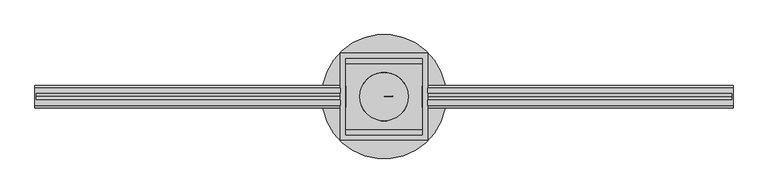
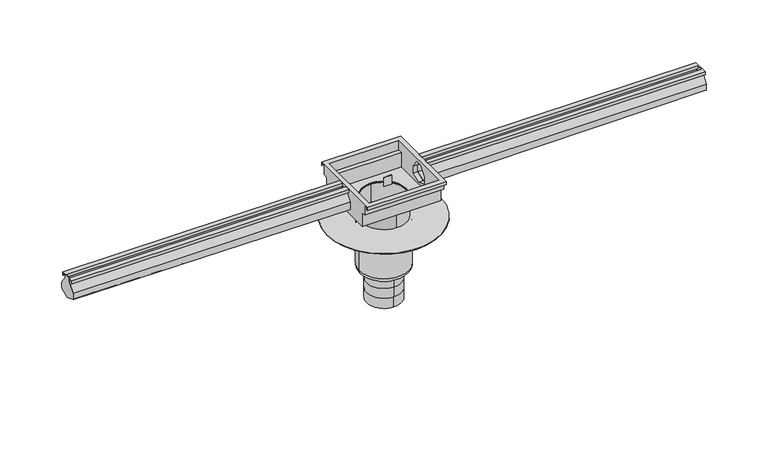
"""IFC4 building model written with IfcOpenShell, lengths in millimetres: sanitary terminal geometry, PF_SS_WPB_Modul 20 : Centered outlet with vertical siphon box."""

from ifc_helpers import new_model, si_unit, point, frame, frame_2d, origin, origin_2d, place, context, project, spatial, polyline, circle_curve, ellipse_curve, trimmed, segment, composite_curve, outline, extrude, faceted_brep, source, transform, mapped, element, save
from ifc_brep_helpers import plane_surface, cylinder_surface, revolved_surface, advanced_brep


def sanitary_terminal_f6cb8919(model_context):
    return source(origin(), model_context, "Body", "SolidModel", [
        advanced_brep(
        [(0.0, 55.0, -419.0), (0.0, -55.0, -419.0), (0.0, 55.0, -386.0), (0.0, -55.0, -386.0), (0.0, 55.0, -353.0), (0.0, -55.0, -353.0), (0.0, -55.0, -320.0), (-55.0, 0.0, -320.0), (0.0, 55.0, -320.0), (55.0, 0.0, -320.0), (-78.5, 0.0, -303.5), (78.5, 0.0, -303.5), (78.5, 0.0, -151.0), (-78.5, 0.0, -151.0), (-62.0, 0.0, -320.0), (62.0, 0.0, -320.0), (179.0, 0.0, -151.0), (-179.0, 0.0, -151.0), (179.0, 0.0, -149.0), (-179.0, 0.0, -149.0)],
        [
            (0, 1, circle_curve(frame((0.0, 0.0, -419.0), z_axis=(0.0, 0.0, -1.0), x_axis=(0.0, -1.0, 0.0)), 55.0)),
            (1, 0, circle_curve(frame((0.0, 0.0, -419.0), z_axis=(0.0, 0.0, -1.0), x_axis=(0.0, -1.0, 0.0)), 55.0)),
            (0, 2),
            (2, 3, circle_curve(frame((0.0, 0.0, -386.0), z_axis=(0.0, 0.0, -1.0), x_axis=(0.0, -1.0, 0.0)), 55.0)),
            (3, 1),
            (3, 2, circle_curve(frame((0.0, 0.0, -386.0), z_axis=(0.0, 0.0, -1.0), x_axis=(0.0, -1.0, 0.0)), 55.0)),
            (4, 2),
            (3, 5),
            (5, 4, circle_curve(frame((0.0, 0.0, -353.0), z_axis=(0.0, 0.0, -1.0), x_axis=(-1.0, 0.0, 0.0)), 55.0)),
            (4, 5, circle_curve(frame((0.0, 0.0, -353.0), z_axis=(0.0, 0.0, -1.0), x_axis=(1.0, 0.0, 0.0)), 55.0)),
            (5, 6),
            (6, 7, circle_curve(frame((0.0, 0.0, -320.0), z_axis=(0.0, 0.0, -1.0), x_axis=(0.0, -1.0, 0.0)), 55.0)),
            (7, 8, circle_curve(frame((0.0, 0.0, -320.0), z_axis=(0.0, 0.0, -1.0), x_axis=(0.0, -1.0, 0.0)), 55.0)),
            (8, 4),
            (8, 9, circle_curve(frame((0.0, 0.0, -320.0), z_axis=(0.0, 0.0, -1.0), x_axis=(0.0, -1.0, 0.0)), 55.0)),
            (9, 6, circle_curve(frame((0.0, 0.0, -320.0), z_axis=(0.0, 0.0, -1.0), x_axis=(0.0, -1.0, 0.0)), 55.0)),
            (10, 11, circle_curve(frame((0.0, 0.0, -303.5), z_axis=(0.0, 0.0, 1.0), x_axis=(1.0, 0.0, 0.0)), 78.5)),
            (11, 12),
            (12, 13, circle_curve(frame((0.0, 0.0, -151.0), z_axis=(0.0, 0.0, -1.0), x_axis=(1.0, 0.0, 0.0)), 78.5)),
            (13, 10),
            (11, 10, circle_curve(frame((0.0, 0.0, -303.5), z_axis=(0.0, 0.0, 1.0), x_axis=(1.0, 0.0, 0.0)), 78.5)),
            (13, 12, circle_curve(frame((0.0, 0.0, -151.0), z_axis=(0.0, 0.0, -1.0), x_axis=(1.0, 0.0, 0.0)), 78.5)),
            (10, 14, circle_curve(frame((-62.0, 0.0, -303.5), z_axis=(0.0, -1.0, 0.0), x_axis=(1.0, 0.0, 0.0)), 16.5)),
            (14, 15, circle_curve(frame((0.0, 0.0, -320.0), z_axis=(0.0, 0.0, 1.0), x_axis=(1.0, 0.0, 0.0)), 62.0)),
            (15, 11, circle_curve(frame((62.0, 0.0, -303.5), z_axis=(0.0, -1.0, 0.0), x_axis=(-1.0, 0.0, 0.0)), 16.5)),
            (15, 14, circle_curve(frame((0.0, 0.0, -320.0), z_axis=(0.0, 0.0, 1.0), x_axis=(1.0, 0.0, 0.0)), 62.0)),
            (14, 7),
            (9, 15),
            (16, 17, circle_curve(frame((0.0, 0.0, -151.0), z_axis=(0.0, 0.0, -1.0), x_axis=(-1.0, 0.0, 0.0)), 179.0)),
            (17, 16, circle_curve(frame((0.0, 0.0, -151.0), z_axis=(0.0, 0.0, -1.0), x_axis=(-1.0, 0.0, 0.0)), 179.0)),
            (18, 19, circle_curve(frame((0.0, 0.0, -149.0), z_axis=(0.0, 0.0, 1.0), x_axis=(-1.0, 0.0, 0.0)), 179.0)),
            (19, 18, circle_curve(frame((0.0, 0.0, -149.0), z_axis=(0.0, 0.0, 1.0), x_axis=(-1.0, 0.0, 0.0)), 179.0)),
            (17, 19),
            (18, 16),
        ],
        [
            plane_surface(frame((0.0, -55.0, -419.0), z_axis=(0.0, 0.0, -1.0), x_axis=(-1.0, 0.0, 0.0))),
            cylinder_surface(frame((0.0, 0.0, -386.0), z_axis=(0.0, 0.0, -1.0), x_axis=(0.0, -1.0, 0.0)), 55.0),
            cylinder_surface(frame((0.0, 0.0, -353.0), z_axis=(0.0, 0.0, -1.0), x_axis=(-1.0, 0.0, 0.0)), 55.0),
            cylinder_surface(frame((0.0, 0.0, -353.0), z_axis=(0.0, 0.0, -1.0), x_axis=(1.0, 0.0, 0.0)), 55.0),
            cylinder_surface(frame((0.0, 0.0, -320.0), z_axis=(0.0, 0.0, -1.0), x_axis=(0.0, -1.0, 0.0)), 55.0),
            cylinder_surface(frame((0.0, 0.0, -89.0), z_axis=(0.0, 0.0, -1.0), x_axis=(1.0, 0.0, 0.0)), 78.5),
            revolved_surface(trimmed(ellipse_curve(frame((62.0, 0.0, -303.5), z_axis=(0.0, 1.0, 0.0), x_axis=(-1.0, 0.0, 0.0)), 16.5, 16.5), [point((78.5, 0.0, -303.5))], [point((62.0, 0.0, -320.0))], True, "CARTESIAN"), (0.0, 0.0, -89.0), (0.0, 0.0, -1.0)),
            plane_surface(frame((0.0, 0.0, -320.0), z_axis=(0.0, 0.0, -1.0), x_axis=(1.0, 0.0, 0.0))),
            plane_surface(frame((-179.0, 0.0, -151.0), z_axis=(0.0, 0.0, -1.0), x_axis=(0.0, 1.0, 0.0))),
            plane_surface(frame((-179.0, 0.0, -149.0), z_axis=(0.0, 0.0, 1.0), x_axis=(0.0, -1.0, 0.0))),
            cylinder_surface(frame((0.0, 0.0, -151.0), z_axis=(0.0, 0.0, 1.0), x_axis=(-1.0, 0.0, 0.0)), 179.0),
        ],
        [
            (0, [[1, 2]]),
            (1, [[-1, 3, 4, 5]]),
            (1, [[-2, -5, 6, -3]]),
            (2, [[7, -6, 8, 9]]),
            (3, [[-7, 10, -8, -4]]),
            (4, [[11, 12, 13, 14, -9]]),
            (4, [[-11, -10, -14, 15, 16]]),
            (5, [[17, 18, 19, 20]]),
            (5, [[-18, 21, -20, 22]]),
            (6, [[-17, 23, 24, 25]]),
            (6, [[-21, -25, 26, -23]]),
            (7, [[-24, 27, -12, -16, 28]]),
            (7, [[-26, -28, -15, -13, -27]]),
            (8, [[29, 30], [-19, -22]]),
            (9, [[31, 32]]),
            (10, [[-30, 33, -31, 34]]),
            (10, [[-29, -34, -32, -33]]),
        ],
    ),
        extrude(outline(composite_curve([segment(polyline([(-320.0, 0.0), (-320.0, 20.0)]), True, "CONTINUOUS"), segment(trimmed(circle_curve(frame_2d((-320.0, 0.0)), 20.0), [point((-320.0, 20.0))], [point((-318.2568851, 19.923894))], False, "CARTESIAN"), True, "CONTINUOUS"), segment(polyline([(-318.2568851, 19.923894), (-320.0, 0.0)]), True, "CONTINUOUS")], self_intersect=False)), frame((0.0, -20.0, 0.0), z_axis=(0.0, 1.0, 0.0), x_axis=(0.0, 0.0, 1.0)), (0.0, 0.0, 1.0), 20.0),
        extrude(outline(composite_curve([segment(trimmed(circle_curve(origin_2d(), 71.0), [point((0.0, 71.0))], [point((0.0, -71.0))], False, "CARTESIAN"), True, "CONTINUOUS"), segment(trimmed(circle_curve(origin_2d(), 71.0), [point((0.0, -71.0))], [point((0.0, 71.0))], False, "CARTESIAN"), True, "CONTINUOUS")], self_intersect=False), holes=[composite_curve([segment(trimmed(circle_curve(origin_2d(), 69.5), [point((0.0, 69.5))], [point((0.0, -69.5))], True, "CARTESIAN"), True, "CONTINUOUS"), segment(trimmed(circle_curve(origin_2d(), 69.5), [point((0.0, -69.5))], [point((0.0, 69.5))], True, "CARTESIAN"), True, "CONTINUOUS")], self_intersect=False)]), frame((0.0, 0.0, -144.0), z_axis=(0.0, 0.0, 1.0), x_axis=(1.0, 0.0, 0.0)), (0.0, 0.0, 1.0), 60.0),
        faceted_brep([(-125.0, -25.0, 0.0), (-125.0, -25.0, -10.0), (-125.0, -23.5, -10.0), (-125.0, -23.5, -1.5), (-125.0, -11.5, -1.5), (-125.0, -11.5, -9.5126205), (-125.0, -32.0, -37.7284498), (-125.0, -32.0, -62.5070441), (-125.0, 0.0, -75.1121794), (-125.0, 32.0, -62.5070441), (-125.0, 32.0, -37.7284498), (-125.0, 11.5, -9.5126205), (-125.0, 11.5, -1.5), (-125.0, 23.5294496, -1.5), (-125.0, 23.5294496, -10.0), (-125.0, 25.0294496, -10.0), (-125.0, 25.0294496, 0.0), (-125.0, 10.0, 0.0), (-125.0, 10.0, -10.0), (-125.0, 30.5, -38.2158294), (-125.0, 30.5, -61.4857305), (-125.0, 0.0, -73.5), (-125.0, -30.5, -61.4857305), (-125.0, -30.5, -38.2158294), (-125.0, -10.0, -10.0), (-125.0, -10.0, 0.0), (-1002.0, -32.0, -57.5070441), (-1002.0, -32.0, -37.7284498), (-1002.0, -11.5, -9.5126205), (-1002.0, -11.5, -1.5), (-1002.0, -23.0, -1.5), (-1002.0, -23.0, -10.0), (-1002.0, -25.0, -10.0), (-1002.0, -25.0, 0.0), (-1002.0, 25.0, 0.0), (-1002.0, 25.0, -10.0), (-1002.0, 23.5, -10.0), (-1002.0, 23.5, -1.5), (-1002.0, 11.5, -1.5), (-1002.0, 11.5, -9.5126205), (-1002.0, 32.0, -37.7284498), (-1002.0, 32.0, -57.5070441), (-1002.0, 0.0, -70.1121794), (-1000.0, -23.0, -10.0), (-1000.0, -23.0, -1.5), (-1000.0, -23.5, -1.5), (-1000.0, -23.5, -10.0), (-1000.0, 10.0, 0.0), (-1000.0, -10.0, 0.0), (-1000.0, -10.0, -10.0), (-1000.0, -30.5, -38.2158294), (-1000.0, -30.5, -56.4857305), (-1000.0, 0.0, -68.5), (-1000.0, 30.5, -56.4857305), (-1000.0, 30.5, -38.2158294), (-1000.0, 10.0, -10.0), (-1000.0, 32.0, -57.5070441), (-1000.0, 0.0, -70.1121794), (-1000.0, -32.0, -57.5070441)], [[[0, 1, 2, 3, 4, 5, 6, 7, 8, 9, 10, 11, 12, 13, 14, 15, 16, 17, 18, 19, 20, 21, 22, 23, 24, 25]], [[26, 27, 28, 29, 30, 31, 32, 33, 34, 35, 36, 37, 38, 39, 40, 41, 42]], [[43, 44, 45, 46]], [[47, 48, 49, 50, 51, 52, 53, 54, 55]], [[31, 30, 44, 43]], [[0, 25, 48, 47, 17, 16, 34, 33]], [[25, 24, 49, 48]], [[24, 23, 50, 49]], [[23, 22, 51, 50]], [[22, 21, 52, 51]], [[21, 20, 53, 52]], [[20, 19, 54, 53]], [[19, 18, 55, 54]], [[18, 17, 47, 55]], [[34, 16, 15, 35]], [[35, 15, 14, 36]], [[36, 14, 13, 37]], [[37, 13, 12, 38]], [[38, 12, 11, 39]], [[39, 11, 10, 40]], [[40, 10, 9, 56, 41]], [[9, 8, 57, 56]], [[8, 7, 58, 57]], [[7, 6, 27, 26, 58]], [[27, 6, 5, 28]], [[28, 5, 4, 29]], [[29, 4, 3, 45, 44, 30]], [[3, 2, 46, 45]], [[2, 1, 32, 31, 43, 46]], [[32, 1, 0, 33]], [[42, 41, 56, 57]], [[26, 42, 57, 58]]]),
        faceted_brep([(125.0, -10.0, 0.0), (125.0, -10.0, -10.0), (125.0, -30.5, -38.2158294), (125.0, -30.5, -61.4857305), (125.0, 0.0, -73.5), (125.0, 30.5, -61.4857305), (125.0, 30.5, -38.2158294), (125.0, 10.0, -10.0), (125.0, 10.0, 0.0), (125.0, 25.0, 0.0), (125.0, 25.0, -10.0), (125.0, 23.5, -10.0), (125.0, 23.5, -1.5), (125.0, 11.5, -1.5), (125.0, 11.5, -9.5126205), (125.0, 32.0, -37.7284498), (125.0, 32.0, -62.5070441), (125.0, 0.0, -75.1121794), (125.0, -32.0, -62.5070441), (125.0, -32.0, -37.7284498), (125.0, -11.5, -9.5126205), (125.0, -11.5, -1.5), (125.0, -23.0, -1.5), (125.0, -23.0, -10.0), (125.0, -25.0, -10.0), (125.0, -25.0, 0.0), (1002.0, -25.0, 0.0), (1002.0, 25.0, 0.0), (1000.0, 10.0, 0.0), (1000.0, -10.0, 0.0), (1002.0, -25.0, -10.0), (1002.0, -23.0, -10.0), (1002.0, -23.0, -1.5), (1002.0, -11.5, -1.5), (1002.0, -11.5, -9.5126205), (1002.0, -32.0, -37.7284498), (1000.0, -32.0, -57.5070441), (1002.0, -32.0, -57.5070441), (1000.0, 0.0, -70.1121794), (1000.0, 32.0, -57.5070441), (1002.0, 32.0, -37.7284498), (1002.0, 32.0, -57.5070441), (1002.0, 11.5, -9.5126205), (1002.0, 11.5, -1.5), (1002.0, 23.5, -1.5), (1002.0, 23.5, -10.0), (1002.0, 25.0, -10.0), (1000.0, 10.0, -10.0), (1000.0, 30.5, -38.2158294), (1000.0, 30.5, -56.4857305), (1000.0, 0.0, -68.5), (1000.0, -30.5, -56.4857305), (1000.0, -30.5, -38.2158294), (1000.0, -10.0, -10.0), (1002.0, 0.0, -70.1121794)], [[[0, 1, 2, 3, 4, 5, 6, 7, 8, 9, 10, 11, 12, 13, 14, 15, 16, 17, 18, 19, 20, 21, 22, 23, 24, 25]], [[0, 25, 26, 27, 9, 8, 28, 29]], [[26, 25, 24, 30]], [[30, 24, 23, 31]], [[31, 23, 22, 32]], [[32, 22, 21, 33]], [[33, 21, 20, 34]], [[34, 20, 19, 35]], [[35, 19, 18, 36, 37]], [[18, 17, 38, 36]], [[17, 16, 39, 38]], [[16, 15, 40, 41, 39]], [[40, 15, 14, 42]], [[42, 14, 13, 43]], [[43, 13, 12, 44]], [[44, 12, 11, 45]], [[45, 11, 10, 46]], [[46, 10, 9, 27]], [[8, 7, 47, 28]], [[7, 6, 48, 47]], [[6, 5, 49, 48]], [[5, 4, 50, 49]], [[4, 3, 51, 50]], [[3, 2, 52, 51]], [[2, 1, 53, 52]], [[1, 0, 29, 53]], [[37, 54, 41, 40, 42, 43, 44, 45, 46, 27, 26, 30, 31, 32, 33, 34, 35]], [[29, 28, 47, 48, 49, 50, 51, 52, 53]], [[41, 54, 38, 39]], [[54, 37, 36, 38]]]),
        advanced_brep(
        [(125.0, -125.0, 0.0), (125.0, -125.0, -10.0), (125.0, -123.5, -10.0), (125.0, -123.5, -1.5), (125.0, -111.5, -1.5), (125.0, -111.5, -33.5), (125.0, -96.5, -33.5), (125.0, -96.5, -81.0), (125.0, 96.5, -81.0), (125.0, 96.5, -33.5), (125.0, 111.5, -33.5), (125.0, 111.5, -1.5), (125.0, 123.5, -1.5), (125.0, 123.5, -10.0), (125.0, 125.0, -10.0), (125.0, 125.0, 0.0), (125.0, -30.5, -38.2158294), (125.0, -10.0, -10.0), (125.0, 10.0, -10.0), (125.0, 30.5, -38.2158294), (125.0, 30.5, -61.4857305), (125.0, 0.0, -73.5), (125.0, -30.5, -61.4857305), (-125.0, 125.0, 0.0), (-125.0, 125.0, -10.0), (-125.0, 123.5, -10.0), (-125.0, 123.5, -1.5), (-125.0, 111.5, -1.5), (-125.0, 111.5, -33.5), (-125.0, 96.5, -33.5), (-125.0, 96.5, -81.0), (-125.0, -96.5, -81.0), (-125.0, -96.5, -33.5), (-125.0, -111.5, -33.5), (-125.0, -111.5, -1.5), (-125.0, -123.5, -1.5), (-125.0, -123.5, -10.0), (-125.0, -125.0, -10.0), (-125.0, -125.0, 0.0), (-125.0, -10.0, -10.0), (-125.0, -30.5, -38.2158294), (-125.0, -30.5, -61.4857305), (-125.0, 0.0, -73.5), (-125.0, 30.5, -61.4857305), (-125.0, 30.5, -38.2158294), (-125.0, 10.0, -10.0), (0.0, 71.0, -81.0), (0.0, -71.0, -81.0), (110.0, 110.0, 0.0), (110.0, -110.0, 0.0), (-110.0, -110.0, 0.0), (-110.0, 110.0, 0.0), (110.0, 110.0, -32.0), (-110.0, 110.0, -32.0), (110.0, -110.0, -32.0), (-110.0, -110.0, -32.0), (110.0, 95.0, -32.0), (-110.0, 95.0, -32.0), (110.0, 95.0, -79.5), (-110.0, 95.0, -79.5), (110.0, -95.0, -79.5), (-110.0, -95.0, -79.5), (-69.5, 0.0, -79.5), (69.5, 0.0, -79.5), (110.0, -95.0, -32.0), (-110.0, -95.0, -32.0), (-69.5, 0.0, -81.0), (69.5, 0.0, -81.0), (110.0, -10.0, -10.0), (110.0, -30.5, -38.2158294), (110.0, -30.5, -61.4857305), (110.0, 0.0, -73.5), (110.0, 30.5, -61.4857305), (110.0, 30.5, -38.2158294), (110.0, 10.0, -10.0), (-110.0, -30.5, -38.2158294), (-110.0, -10.0, -10.0), (-110.0, 10.0, -10.0), (-110.0, 30.5, -38.2158294), (-110.0, 30.5, -61.4857305), (-110.0, 0.0, -73.5), (-110.0, -30.5, -61.4857305), (0.0, 71.0, -84.0), (0.0, -71.0, -84.0), (69.5, 0.0, -84.0), (-69.5, 0.0, -84.0)],
        [
            (0, 1),
            (1, 2),
            (2, 3),
            (3, 4),
            (4, 5),
            (5, 6),
            (6, 7),
            (7, 8),
            (8, 9),
            (9, 10),
            (10, 11),
            (11, 12),
            (12, 13),
            (13, 14),
            (14, 15),
            (15, 0),
            (16, 17),
            (17, 18),
            (18, 19),
            (19, 20),
            (20, 21),
            (21, 22),
            (22, 16),
            (23, 24),
            (24, 25),
            (25, 26),
            (26, 27),
            (27, 28),
            (28, 29),
            (29, 30),
            (30, 31),
            (31, 32),
            (32, 33),
            (33, 34),
            (34, 35),
            (35, 36),
            (36, 37),
            (37, 38),
            (38, 23),
            (39, 40),
            (40, 41),
            (41, 42),
            (42, 43),
            (43, 44),
            (44, 45),
            (45, 39),
            (0, 38),
            (37, 1),
            (36, 2),
            (3, 35),
            (34, 4),
            (7, 31),
            (30, 8),
            (46, 47, circle_curve(frame((0.0, 0.0, -81.0), z_axis=(0.0, 0.0, 1.0), x_axis=(0.0, -1.0, 0.0)), 71.0)),
            (47, 46, circle_curve(frame((0.0, 0.0, -81.0), z_axis=(0.0, 0.0, 1.0), x_axis=(0.0, -1.0, 0.0)), 71.0)),
            (13, 25),
            (24, 14),
            (23, 15),
            (48, 49),
            (49, 50),
            (50, 51),
            (51, 48),
            (52, 48),
            (51, 53),
            (53, 52),
            (49, 54),
            (54, 55),
            (55, 50),
            (5, 33),
            (32, 6),
            (56, 52),
            (53, 57),
            (57, 56),
            (58, 56),
            (57, 59),
            (59, 58),
            (60, 58),
            (59, 61),
            (61, 60),
            (62, 63, circle_curve(frame((0.0, 0.0, -79.5), z_axis=(0.0, 0.0, -1.0), x_axis=(1.0, 0.0, 0.0)), 69.5)),
            (63, 62, circle_curve(frame((0.0, 0.0, -79.5), z_axis=(0.0, 0.0, -1.0), x_axis=(1.0, 0.0, 0.0)), 69.5)),
            (64, 60),
            (61, 65),
            (65, 64),
            (54, 64),
            (65, 55),
            (62, 66),
            (66, 67, circle_curve(frame((0.0, 0.0, -81.0), z_axis=(0.0, 0.0, -1.0), x_axis=(1.0, 0.0, 0.0)), 69.5)),
            (67, 63),
            (67, 66, circle_curve(frame((0.0, 0.0, -81.0), z_axis=(0.0, 0.0, -1.0), x_axis=(1.0, 0.0, 0.0)), 69.5)),
            (68, 69),
            (69, 70),
            (70, 71),
            (71, 72),
            (72, 73),
            (73, 74),
            (74, 68),
            (68, 17),
            (16, 69),
            (74, 18),
            (73, 19),
            (72, 20),
            (71, 21),
            (70, 22),
            (75, 76),
            (76, 77),
            (77, 78),
            (78, 79),
            (79, 80),
            (80, 81),
            (81, 75),
            (39, 76),
            (75, 40),
            (45, 77),
            (44, 78),
            (43, 79),
            (42, 80),
            (41, 81),
            (82, 83, circle_curve(frame((0.0, 0.0, -84.0), z_axis=(0.0, 0.0, -1.0), x_axis=(0.0, -1.0, 0.0)), 71.0)),
            (83, 82, circle_curve(frame((0.0, 0.0, -84.0), z_axis=(0.0, 0.0, -1.0), x_axis=(0.0, -1.0, 0.0)), 71.0)),
            (84, 85, circle_curve(frame((0.0, 0.0, -84.0), z_axis=(0.0, 0.0, 1.0), x_axis=(1.0, 0.0, 0.0)), 69.5)),
            (85, 84, circle_curve(frame((0.0, 0.0, -84.0), z_axis=(0.0, 0.0, 1.0), x_axis=(1.0, 0.0, 0.0)), 69.5)),
            (83, 47),
            (46, 82),
            (66, 85),
            (84, 67),
            (29, 9),
            (28, 10),
            (27, 11),
            (26, 12),
        ],
        [
            plane_surface(frame((125.0, -125.0, -10.0), z_axis=(1.0, 0.0, 0.0), x_axis=(0.0, 0.0, -1.0))),
            plane_surface(frame((-125.0, -125.0, -10.0), z_axis=(-1.0, 0.0, 0.0), x_axis=(0.0, 0.0, 1.0))),
            plane_surface(frame((125.0, -125.0, 0.0), z_axis=(0.0, -1.0, 0.0), x_axis=(-1.0, 0.0, 0.0))),
            plane_surface(frame((125.0, -125.0, -10.0), z_axis=(0.0, 0.0, -1.0), x_axis=(-1.0, 0.0, 0.0))),
            plane_surface(frame((125.0, -123.5, -1.5), z_axis=(0.0, 0.0, -1.0), x_axis=(-1.0, 0.0, 0.0))),
            plane_surface(frame((125.0, -96.5, -81.0), z_axis=(0.0, 0.0, -1.0), x_axis=(-1.0, 0.0, 0.0))),
            plane_surface(frame((125.0, 123.5, -10.0), z_axis=(0.0, 0.0, -1.0), x_axis=(-1.0, 0.0, 0.0))),
            plane_surface(frame((125.0, 125.0, -10.0), z_axis=(0.0, 1.0, 0.0), x_axis=(-1.0, 0.0, 0.0))),
            plane_surface(frame((125.0, 125.0, 0.0), z_axis=(0.0, 0.0, 1.0), x_axis=(-1.0, 0.0, 0.0))),
            plane_surface(frame((125.0, 110.0, 0.0), z_axis=(0.0, -1.0, 0.0), x_axis=(-1.0, 0.0, 0.0))),
            plane_surface(frame((125.0, -110.0, -32.0), z_axis=(0.0, 1.0, 0.0), x_axis=(-1.0, 0.0, 0.0))),
            plane_surface(frame((125.0, -111.5, -33.5), z_axis=(0.0, 0.0, -1.0), x_axis=(-1.0, 0.0, 0.0))),
            plane_surface(frame((125.0, 110.0, -32.0), z_axis=(0.0, 0.0, 1.0), x_axis=(-1.0, 0.0, 0.0))),
            plane_surface(frame((125.0, 95.0, -32.0), z_axis=(0.0, -1.0, 0.0), x_axis=(-1.0, 0.0, 0.0))),
            plane_surface(frame((125.0, 95.0, -79.5), z_axis=(0.0, 0.0, 1.0), x_axis=(-1.0, 0.0, 0.0))),
            plane_surface(frame((125.0, -95.0, -79.5), z_axis=(0.0, 1.0, 0.0), x_axis=(-1.0, 0.0, 0.0))),
            plane_surface(frame((125.0, -95.0, -32.0), z_axis=(0.0, 0.0, 1.0), x_axis=(-1.0, 0.0, 0.0))),
            revolved_surface(polyline([(69.5, 0.0, -81.0), (69.5, 0.0, -79.5)]), (0.0, 0.0, -79.5), (0.0, 0.0, -1.0)),
            plane_surface(frame((110.0, -110.0, 0.0), z_axis=(-1.0, 0.0, 0.0), x_axis=(0.0, 1.0, 0.0))),
            plane_surface(frame((110.0, -30.5, -38.2158294), z_axis=(0.0, 0.809016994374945, -0.5877852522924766), x_axis=(1.0, 0.0, 0.0))),
            plane_surface(frame((110.0, -10.0, -10.0), z_axis=(0.0, 0.0, -1.0), x_axis=(1.0, 0.0, 0.0))),
            plane_surface(frame((110.0, 10.0, -10.0), z_axis=(0.0, -0.8090169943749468, -0.5877852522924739), x_axis=(1.0, 0.0, 0.0))),
            plane_surface(frame((110.0, 30.5, -38.2158294), z_axis=(0.0, -1.0, 0.0), x_axis=(1.0, 0.0, 0.0))),
            plane_surface(frame((110.0, 30.5, -61.4857305), z_axis=(0.0, -0.366501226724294, 0.9304175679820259), x_axis=(1.0, 0.0, 0.0))),
            plane_surface(frame((110.0, 0.0, -73.5), z_axis=(0.0, 0.36650122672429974, 0.9304175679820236), x_axis=(1.0, 0.0, 0.0))),
            plane_surface(frame((110.0, -30.5, -61.4857305), z_axis=(0.0, 1.0, 0.0), x_axis=(1.0, 0.0, 0.0))),
            plane_surface(frame((-110.0, -110.0, 0.0), z_axis=(1.0, 0.0, 0.0), x_axis=(0.0, 0.0, -1.0))),
            plane_surface(frame((-95.0, -10.0, -10.0), z_axis=(0.0, 0.8090169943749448, -0.5877852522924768), x_axis=(-1.0, 0.0, 0.0))),
            plane_surface(frame((-95.0, 10.0, -10.0), z_axis=(0.0, 0.0, -1.0), x_axis=(-1.0, 0.0, 0.0))),
            plane_surface(frame((-95.0, 30.5, -38.2158294), z_axis=(0.0, -0.8090169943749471, -0.5877852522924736), x_axis=(-1.0, 0.0, 0.0))),
            plane_surface(frame((-95.0, 30.5, -61.4857305), z_axis=(0.0, -1.0, 0.0), x_axis=(-1.0, 0.0, 0.0))),
            plane_surface(frame((-95.0, 0.0, -73.5), z_axis=(0.0, -0.36650122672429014, 0.9304175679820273), x_axis=(-1.0, 0.0, 0.0))),
            plane_surface(frame((-95.0, -30.5, -61.4857305), z_axis=(0.0, 0.366501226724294, 0.9304175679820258), x_axis=(-1.0, 0.0, 0.0))),
            plane_surface(frame((-95.0, -30.5, -38.2158294), z_axis=(0.0, 1.0, 0.0), x_axis=(-1.0, 0.0, 0.0))),
            plane_surface(frame((0.0, -71.0, -84.0), z_axis=(0.0, 0.0, -1.0), x_axis=(-1.0, 0.0, 0.0))),
            cylinder_surface(frame((0.0, 0.0, -84.0), z_axis=(0.0, 0.0, 1.0), x_axis=(0.0, -1.0, 0.0)), 71.0),
            revolved_surface(polyline([(69.5, 0.0, -84.0), (69.5, 0.0, -81.0)]), (0.0, 0.0, -79.5), (0.0, 0.0, -1.0)),
            plane_surface(frame((125.0, -111.5, -1.5), z_axis=(0.0, -1.0, 0.0), x_axis=(-1.0, 0.0, 0.0))),
            plane_surface(frame((125.0, -123.5, -10.0), z_axis=(0.0, 1.0, 0.0), x_axis=(-1.0, 0.0, 0.0))),
            plane_surface(frame((125.0, -96.5, -33.5), z_axis=(0.0, -1.0, 0.0), x_axis=(-1.0, 0.0, 0.0))),
            plane_surface(frame((125.0, 96.5, -81.0), z_axis=(0.0, 1.0, 0.0), x_axis=(-1.0, 0.0, 0.0))),
            plane_surface(frame((125.0, 96.5, -33.5), z_axis=(0.0, 0.0, -1.0), x_axis=(-1.0, 0.0, 0.0))),
            plane_surface(frame((125.0, 111.5, -33.5), z_axis=(0.0, 1.0, 0.0), x_axis=(-1.0, 0.0, 0.0))),
            plane_surface(frame((125.0, 111.5, -1.5), z_axis=(0.0, 0.0, -1.0), x_axis=(-1.0, 0.0, 0.0))),
            plane_surface(frame((125.0, 123.5, -1.5), z_axis=(0.0, -1.0, 0.0), x_axis=(-1.0, 0.0, 0.0))),
        ],
        [
            (0, [[1, 2, 3, 4, 5, 6, 7, 8, 9, 10, 11, 12, 13, 14, 15, 16], [17, 18, 19, 20, 21, 22, 23]]),
            (1, [[24, 25, 26, 27, 28, 29, 30, 31, 32, 33, 34, 35, 36, 37, 38, 39], [40, 41, 42, 43, 44, 45, 46]]),
            (2, [[-1, 47, -38, 48]]),
            (3, [[-2, -48, -37, 49]]),
            (4, [[-4, 50, -35, 51]]),
            (5, [[-8, 52, -31, 53], [54, 55]]),
            (6, [[-14, 56, -25, 57]]),
            (7, [[-15, -57, -24, 58]]),
            (8, [[-47, -16, -58, -39], [59, 60, 61, 62]]),
            (9, [[63, -62, 64, 65]]),
            (10, [[66, 67, 68, -60]]),
            (11, [[-6, 69, -33, 70]]),
            (12, [[71, -65, 72, 73]]),
            (13, [[74, -73, 75, 76]]),
            (14, [[77, -76, 78, 79], [80, 81]]),
            (15, [[82, -79, 83, 84]]),
            (16, [[85, -84, 86, -67]]),
            (17, [[87, 88, 89, -80]]),
            (17, [[-87, -81, -89, 90]]),
            (18, [[-59, -63, -71, -74, -77, -82, -85, -66], [91, 92, 93, 94, 95, 96, 97]]),
            (19, [[98, -17, 99, -91]]),
            (20, [[-98, -97, 100, -18]]),
            (21, [[-100, -96, 101, -19]]),
            (22, [[-101, -95, 102, -20]]),
            (23, [[-102, -94, 103, -21]]),
            (24, [[-103, -93, 104, -22]]),
            (25, [[-99, -23, -104, -92]]),
            (26, [[-61, -68, -86, -83, -78, -75, -72, -64], [105, 106, 107, 108, 109, 110, 111]]),
            (27, [[112, -105, 113, -40]]),
            (28, [[-112, -46, 114, -106]]),
            (29, [[-114, -45, 115, -107]]),
            (30, [[-115, -44, 116, -108]]),
            (31, [[-116, -43, 117, -109]]),
            (32, [[-117, -42, 118, -110]]),
            (33, [[-118, -41, -113, -111]]),
            (34, [[119, 120], [121, 122]]),
            (35, [[-120, 123, -54, 124]]),
            (35, [[-119, -124, -55, -123]]),
            (36, [[125, -121, 126, -88]]),
            (36, [[-125, -90, -126, -122]]),
            (37, [[-5, -51, -34, -69]]),
            (38, [[-3, -49, -36, -50]]),
            (39, [[-7, -70, -32, -52]]),
            (40, [[-9, -53, -30, 127]]),
            (41, [[-10, -127, -29, 128]]),
            (42, [[-11, -128, -28, 129]]),
            (43, [[-12, -129, -27, 130]]),
            (44, [[-13, -130, -26, -56]]),
        ],
    ),
        extrude(outline(composite_curve([segment(trimmed(circle_curve(origin_2d(), 25.0), [point((24.9048675, 2.1788936))], [point((25.0, 0.0))], False, "CARTESIAN"), True, "CONTINUOUS"), segment(polyline([(25.0, 0.0), (0.0, 0.0), (24.9048675, 2.1788936)]), True, "CONTINUOUS")], self_intersect=False)), frame((0.0, 0.0, -49.0844435), z_axis=(0.0, 0.0, 1.0), x_axis=(1.0, 0.0, 0.0)), (0.0, 0.0, 1.0), 30.0),
    ])


if __name__ == "__main__":
    model = new_model("IFC4")
    model_context = context("Model", 3, world=origin())
    ifc_project = project(units=[si_unit("LENGTHUNIT", "METRE", prefix="MILLI")], contexts=[model_context])
    site = spatial("IfcSite", under=ifc_project)
    building = spatial("IfcBuilding", under=site)
    placement = place(None, origin())
    sanitary_terminal_shape = sanitary_terminal_f6cb8919(model_context)
    element("IfcSanitaryTerminal", 1, ObjectType="PF_SS_WPB_Modul 20 : Centered outlet with vertical siphon box", at=placement, inside=building, context=model_context, shape_type="MappedRepresentation", body=[
        mapped(sanitary_terminal_shape, transform((0.0, 0.0, 0.0), x_axis=(1.0, 0.0, 0.0), y_axis=(0.0, 1.0, 0.0), z_axis=(0.0, 0.0, 1.0))),
    ])
    save(model, "model.ifc")
